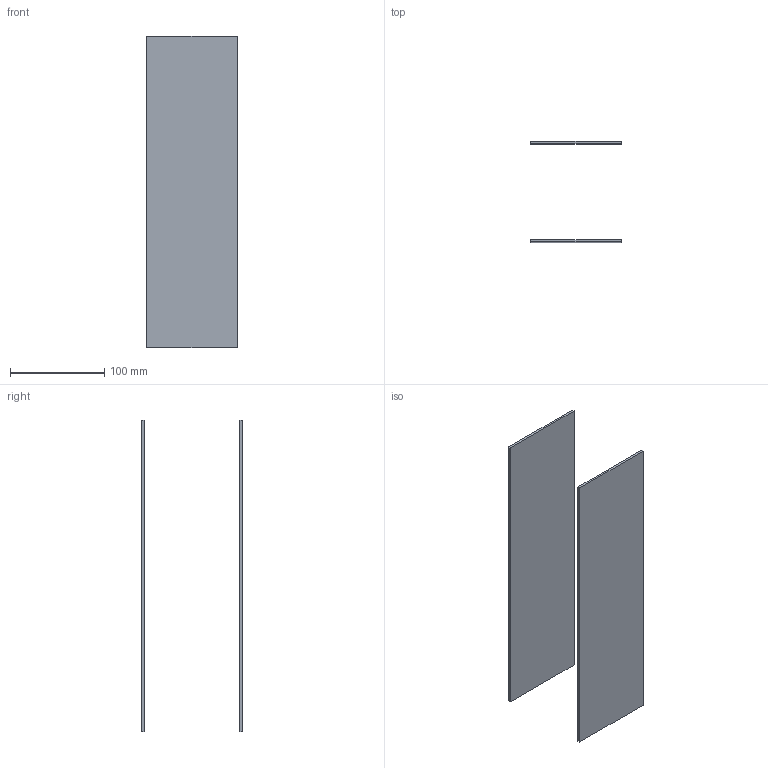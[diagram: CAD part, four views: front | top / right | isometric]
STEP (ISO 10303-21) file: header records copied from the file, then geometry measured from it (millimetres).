
FILE_DESCRIPTION(('Open CASCADE Model'),'2;1');
FILE_NAME('wings_stowed','2026-08-12T02:42:46',('Author'),( 'Open CASCADE'),'Open CASCADE STEP processor 7.9','build123d', 'Unknown');
FILE_SCHEMA(('AUTOMOTIVE_DESIGN { 1 0 10303 214 1 1 1 1 }'));
Length unit declared in the file: millimetre
Products named in the file (3): wings_stowed; COMPOUND
Assembly tree (2 placements, depth 2):
  wings_stowed
    COMPOUND
    COMPOUND
Bounding box: 96 x 106.6 x 330 mm (x, y, z)
Volume: 158400 mm3; surface area: 130980 mm2
Topology: 2 solids, 2 shells, 12 faces, 24 edges, 16 vertices
Faces by surface type: plane 12
Entity records: 664 total; most frequent: CARTESIAN_POINT 103, DIRECTION 102, LINE 72, VECTOR 72, ORIENTED_EDGE 48, PCURVE 48, DEFINITIONAL_REPRESENTATION 48, EDGE_CURVE 24
